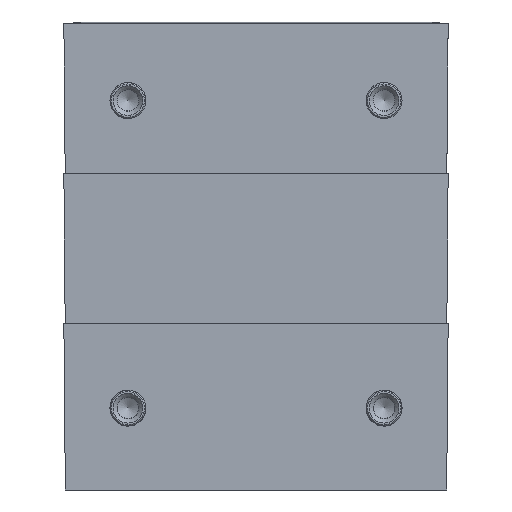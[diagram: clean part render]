
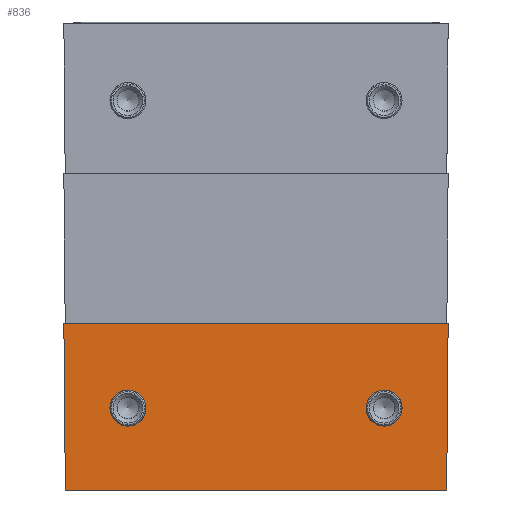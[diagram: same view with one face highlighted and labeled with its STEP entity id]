
A CAD part, front view. The second image highlights one B-rep face of the part: STEP entity #836.
In plain terms, the highlighted planar face has unit normal (0, -1, -0.009).
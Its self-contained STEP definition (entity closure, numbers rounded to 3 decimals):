
#836=ADVANCED_FACE('',(#2428,#2430,#2432),#2434,.T.);
#2428=FACE_BOUND('',#2429,.T.);
#2429=EDGE_LOOP('',(#3833,#3834,#3835,#3836));
#2430=FACE_BOUND('',#2431,.T.);
#2431=EDGE_LOOP('',(#3837));
#2432=FACE_BOUND('',#2433,.T.);
#2433=EDGE_LOOP('',(#3838));
#2434=PLANE('',#2435);
#2435=AXIS2_PLACEMENT_3D('',#2436,#2437,#2438);
#2436=CARTESIAN_POINT('',(0.,-81.641,253.093));
#2437=DIRECTION('',(-0.,-1.,-0.009));
#2438=DIRECTION('',(-1.,0.,0.));
#3833=ORIENTED_EDGE('',*,*,#4613,.F.);
#3834=ORIENTED_EDGE('',*,*,#4597,.T.);
#3835=ORIENTED_EDGE('',*,*,#4612,.T.);
#3836=ORIENTED_EDGE('',*,*,#4614,.T.);
#3837=ORIENTED_EDGE('',*,*,#4615,.T.);
#3838=ORIENTED_EDGE('',*,*,#4616,.F.);
#4597=EDGE_CURVE('',#4997,#4995,#4998,.T.);
#4612=EDGE_CURVE('',#4995,#5020,#5022,.T.);
#4613=EDGE_CURVE('',#4997,#5023,#5024,.T.);
#4614=EDGE_CURVE('',#5020,#5023,#5025,.T.);
#4615=EDGE_CURVE('',#5026,#5026,#5027,.T.);
#4616=EDGE_CURVE('',#5028,#5028,#5029,.T.);
#4995=VERTEX_POINT('',#5682);
#4997=VERTEX_POINT('',#5686);
#4998=LINE('',#5687,#5688);
#5020=VERTEX_POINT('',#5742);
#5022=LINE('',#5746,#5747);
#5023=VERTEX_POINT('',#5749);
#5024=LINE('',#5750,#5751);
#5025=LINE('',#5753,#5754);
#5026=VERTEX_POINT('',#5756);
#5027=(BOUNDED_CURVE()B_SPLINE_CURVE(3,
(#5757,#5758,#5759,#5760,#5761,#5762,#5763),
.UNSPECIFIED.,.T.,.F.)B_SPLINE_CURVE_WITH_KNOTS((4,3,4),
(0.,0.5,1.),
.UNSPECIFIED.)CURVE()GEOMETRIC_REPRESENTATION_ITEM()RATIONAL_B_SPLINE_CURVE((1.,
0.333,0.333,1.,0.333,0.333,1.))
REPRESENTATION_ITEM(''));
#5028=VERTEX_POINT('',#5764);
#5029=(BOUNDED_CURVE()B_SPLINE_CURVE(3,
(#5765,#5766,#5767,#5768,#5769,#5770,#5771),
.UNSPECIFIED.,.T.,.F.)B_SPLINE_CURVE_WITH_KNOTS((4,3,4),
(0.,0.5,1.),
.UNSPECIFIED.)CURVE()GEOMETRIC_REPRESENTATION_ITEM()RATIONAL_B_SPLINE_CURVE((1.,
0.333,0.333,1.,0.333,0.333,1.))
REPRESENTATION_ITEM(''));
#5682=CARTESIAN_POINT('',(74.433,-79.433,0.));
#5686=CARTESIAN_POINT('',(-74.433,-79.433,0.));
#5687=CARTESIAN_POINT('',(-74.433,-79.433,0.));
#5688=VECTOR('',#5689,1.);
#5689=DIRECTION('',(1.,0.,0.));
#5742=CARTESIAN_POINT('',(75.,-80.,65.));
#5746=CARTESIAN_POINT('',(74.433,-79.433,0.));
#5747=VECTOR('',#5748,1.);
#5748=DIRECTION('',(0.009,-0.009,1.));
#5749=CARTESIAN_POINT('',(-75.,-80.,65.));
#5750=CARTESIAN_POINT('',(-74.433,-79.433,0.));
#5751=VECTOR('',#5752,1.);
#5752=DIRECTION('',(-0.009,-0.009,1.));
#5753=CARTESIAN_POINT('',(75.,-80.,65.));
#5754=VECTOR('',#5755,1.);
#5755=DIRECTION('',(-1.,0.,0.));
#5756=CARTESIAN_POINT('',(-43.,-79.712,32.));
#5757=CARTESIAN_POINT('',(-43.,-79.712,32.));
#5758=CARTESIAN_POINT('',(-43.,-79.59,18.));
#5759=CARTESIAN_POINT('',(-57.,-79.59,18.));
#5760=CARTESIAN_POINT('',(-57.,-79.712,32.));
#5761=CARTESIAN_POINT('',(-57.,-79.834,46.));
#5762=CARTESIAN_POINT('',(-43.,-79.834,46.));
#5763=CARTESIAN_POINT('',(-43.,-79.712,32.));
#5764=CARTESIAN_POINT('',(43.,-79.712,32.));
#5765=CARTESIAN_POINT('',(43.,-79.712,32.));
#5766=CARTESIAN_POINT('',(43.,-79.59,18.));
#5767=CARTESIAN_POINT('',(57.,-79.59,18.));
#5768=CARTESIAN_POINT('',(57.,-79.712,32.));
#5769=CARTESIAN_POINT('',(57.,-79.834,46.));
#5770=CARTESIAN_POINT('',(43.,-79.834,46.));
#5771=CARTESIAN_POINT('',(43.,-79.712,32.));
